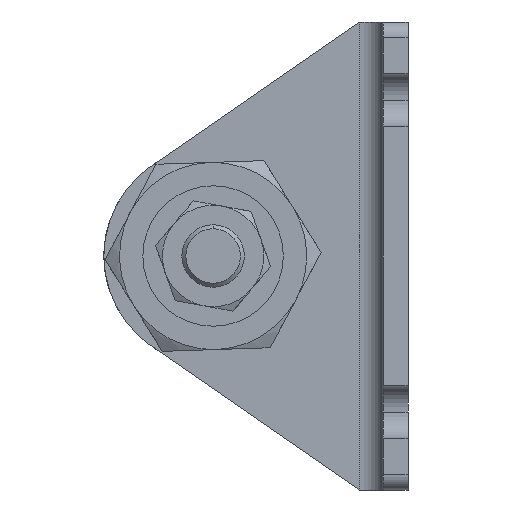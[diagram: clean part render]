
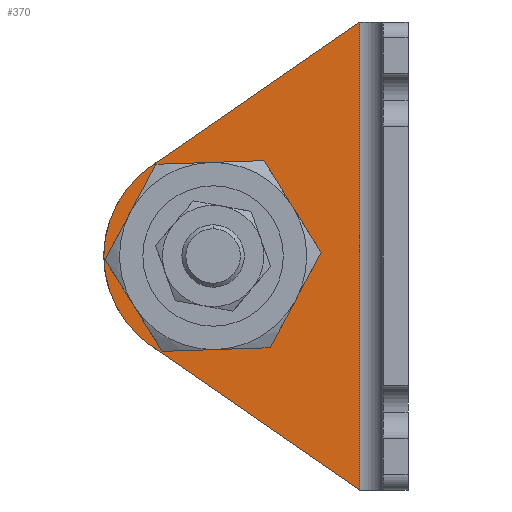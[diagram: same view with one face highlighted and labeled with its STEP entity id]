
A CAD part, left-side view. The second image highlights one B-rep face of the part: STEP entity #370.
In plain terms, the highlighted planar face has unit normal (-1, 0, 0) as drawn and (1, 0, 0) by its records, which use the part's own axes.
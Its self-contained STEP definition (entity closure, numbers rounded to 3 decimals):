
#81 = CARTESIAN_POINT ( 'NONE',  ( 3.2, 25., -30. ) ) ;
#130 = CARTESIAN_POINT ( 'NONE',  ( 3.2, 34.5, -30. ) ) ;
#231 = CARTESIAN_POINT ( 'NONE',  ( 3.2, 32.956, -18.481 ) ) ;
#350 = EDGE_CURVE ( 'NONE', #453, #2856, #1109, .T. ) ;
#362 = EDGE_CURVE ( 'NONE', #1757, #2677, #2163, .T. ) ;
#370 = ADVANCED_FACE ( 'NONE', ( #3869, #1156 ), #564, .T. ) ;
#399 = AXIS2_PLACEMENT_3D ( 'NONE', #81, #2308, #3131 ) ;
#453 = VERTEX_POINT ( 'NONE', #1562 ) ;
#481 = CARTESIAN_POINT ( 'NONE',  ( 3.2, 32.226, -17.976 ) ) ;
#556 = AXIS2_PLACEMENT_3D ( 'NONE', #1774, #2661, #1640 ) ;
#564 = PLANE ( 'NONE',  #1731 ) ;
#576 = VECTOR ( 'NONE', #2490, 1000. ) ;
#600 = EDGE_CURVE ( 'NONE', #2677, #3466, #764, .T. ) ;
#710 = DIRECTION ( 'NONE',  ( 1., 0., 0. ) ) ;
#764 = CIRCLE ( 'NONE', #2910, 14. ) ;
#853 = CARTESIAN_POINT ( 'NONE',  ( 3.2, 6.2, 0. ) ) ;
#856 = CARTESIAN_POINT ( 'NONE',  ( 3.2, 39., -30. ) ) ;
#898 = EDGE_CURVE ( 'NONE', #3688, #3153, #1469, .T. ) ;
#975 = EDGE_CURVE ( 'NONE', #3688, #3466, #1009, .T. ) ;
#1009 = LINE ( 'NONE', #481, #1198 ) ;
#1062 = CARTESIAN_POINT ( 'NONE',  ( 3.2, 6.2, -60. ) ) ;
#1093 = DIRECTION ( 'NONE',  ( 0., 1., 0. ) ) ;
#1109 = CIRCLE ( 'NONE', #3241, 9.5 ) ;
#1156 = FACE_OUTER_BOUND ( 'NONE', #3936, .T. ) ;
#1198 = VECTOR ( 'NONE', #3355, 1000. ) ;
#1382 = EDGE_CURVE ( 'NONE', #2856, #453, #2336, .T. ) ;
#1405 = DIRECTION ( 'NONE',  ( 0., 0.823, 0.568 ) ) ;
#1469 = LINE ( 'NONE', #1062, #576 ) ;
#1562 = CARTESIAN_POINT ( 'NONE',  ( 3.2, 15.5, -30. ) ) ;
#1620 = EDGE_LOOP ( 'NONE', ( #3951, #3013 ) ) ;
#1640 = DIRECTION ( 'NONE',  ( 0., 1., 0. ) ) ;
#1731 = AXIS2_PLACEMENT_3D ( 'NONE', #2932, #3800, #1093 ) ;
#1757 = VERTEX_POINT ( 'NONE', #3759 ) ;
#1774 = CARTESIAN_POINT ( 'NONE',  ( 3.2, 25., -30. ) ) ;
#1781 = CARTESIAN_POINT ( 'NONE',  ( 3.2, 25., -30. ) ) ;
#1884 = EDGE_CURVE ( 'NONE', #3153, #1757, #4152, .T. ) ;
#2163 = CIRCLE ( 'NONE', #556, 14. ) ;
#2308 = DIRECTION ( 'NONE',  ( 1., 0., 0. ) ) ;
#2336 = CIRCLE ( 'NONE', #399, 9.5 ) ;
#2490 = DIRECTION ( 'NONE',  ( 0., 0., -1. ) ) ;
#2572 = CARTESIAN_POINT ( 'NONE',  ( 3.2, 6.2, -60. ) ) ;
#2590 = ORIENTED_EDGE ( 'NONE', *, *, #362, .T. ) ;
#2661 = DIRECTION ( 'NONE',  ( 1., 0., 0. ) ) ;
#2677 = VERTEX_POINT ( 'NONE', #856 ) ;
#2803 = ORIENTED_EDGE ( 'NONE', *, *, #898, .T. ) ;
#2856 = VERTEX_POINT ( 'NONE', #130 ) ;
#2861 = CARTESIAN_POINT ( 'NONE',  ( 3.2, 25., -30. ) ) ;
#2910 = AXIS2_PLACEMENT_3D ( 'NONE', #1781, #710, #4127 ) ;
#2932 = CARTESIAN_POINT ( 'NONE',  ( 3.2, 3.2, -60. ) ) ;
#3013 = ORIENTED_EDGE ( 'NONE', *, *, #350, .F. ) ;
#3069 = DIRECTION ( 'NONE',  ( 0., 1., 0. ) ) ;
#3131 = DIRECTION ( 'NONE',  ( 0., 1., 0. ) ) ;
#3153 = VERTEX_POINT ( 'NONE', #2572 ) ;
#3188 = VECTOR ( 'NONE', #1405, 1000. ) ;
#3241 = AXIS2_PLACEMENT_3D ( 'NONE', #2861, #3315, #3069 ) ;
#3315 = DIRECTION ( 'NONE',  ( 1., 0., 0. ) ) ;
#3355 = DIRECTION ( 'NONE',  ( 0., 0.823, -0.568 ) ) ;
#3466 = VERTEX_POINT ( 'NONE', #231 ) ;
#3546 = ORIENTED_EDGE ( 'NONE', *, *, #975, .F. ) ;
#3610 = ORIENTED_EDGE ( 'NONE', *, *, #1884, .T. ) ;
#3640 = CARTESIAN_POINT ( 'NONE',  ( 3.2, 4.169, -61.403 ) ) ;
#3688 = VERTEX_POINT ( 'NONE', #853 ) ;
#3731 = ORIENTED_EDGE ( 'NONE', *, *, #600, .T. ) ;
#3759 = CARTESIAN_POINT ( 'NONE',  ( 3.2, 32.956, -41.519 ) ) ;
#3800 = DIRECTION ( 'NONE',  ( 1., 0., 0. ) ) ;
#3869 = FACE_BOUND ( 'NONE', #1620, .T. ) ;
#3936 = EDGE_LOOP ( 'NONE', ( #3610, #2590, #3731, #3546, #2803 ) ) ;
#3951 = ORIENTED_EDGE ( 'NONE', *, *, #1382, .F. ) ;
#4127 = DIRECTION ( 'NONE',  ( 0., 1., 0. ) ) ;
#4152 = LINE ( 'NONE', #3640, #3188 ) ;
